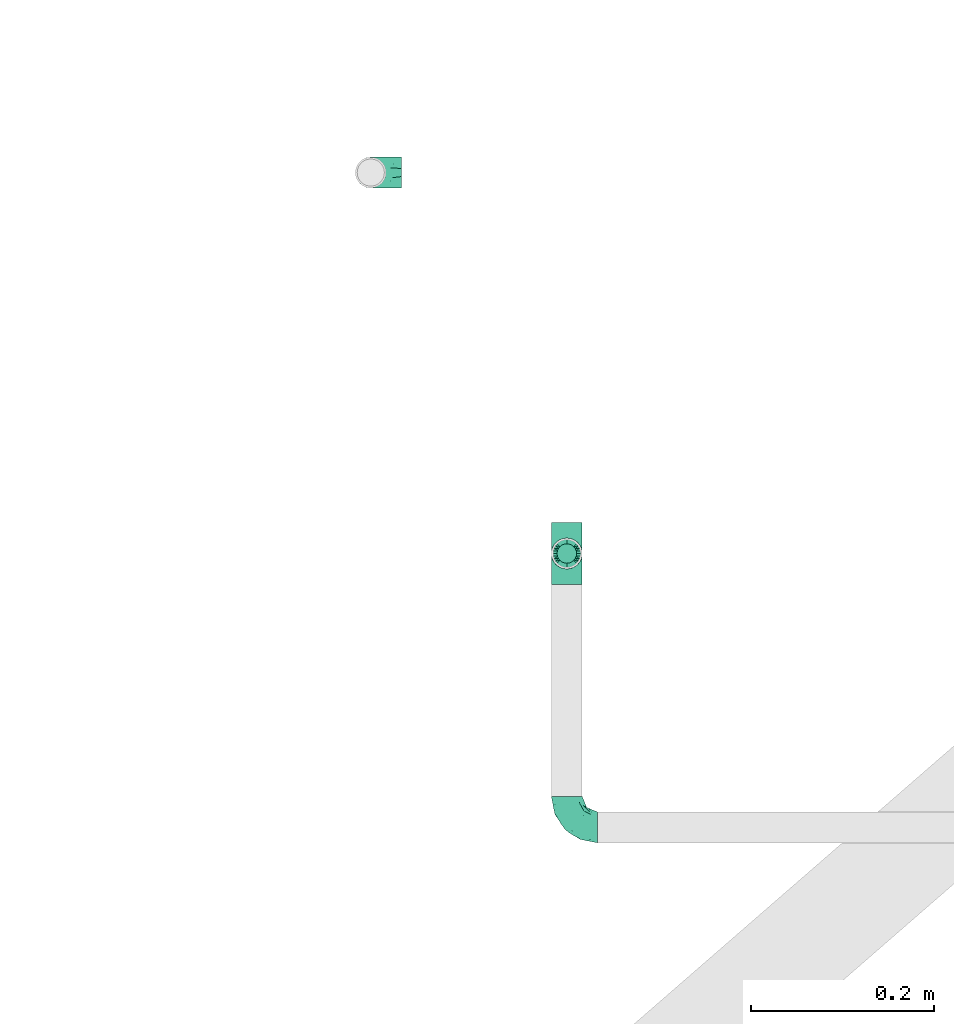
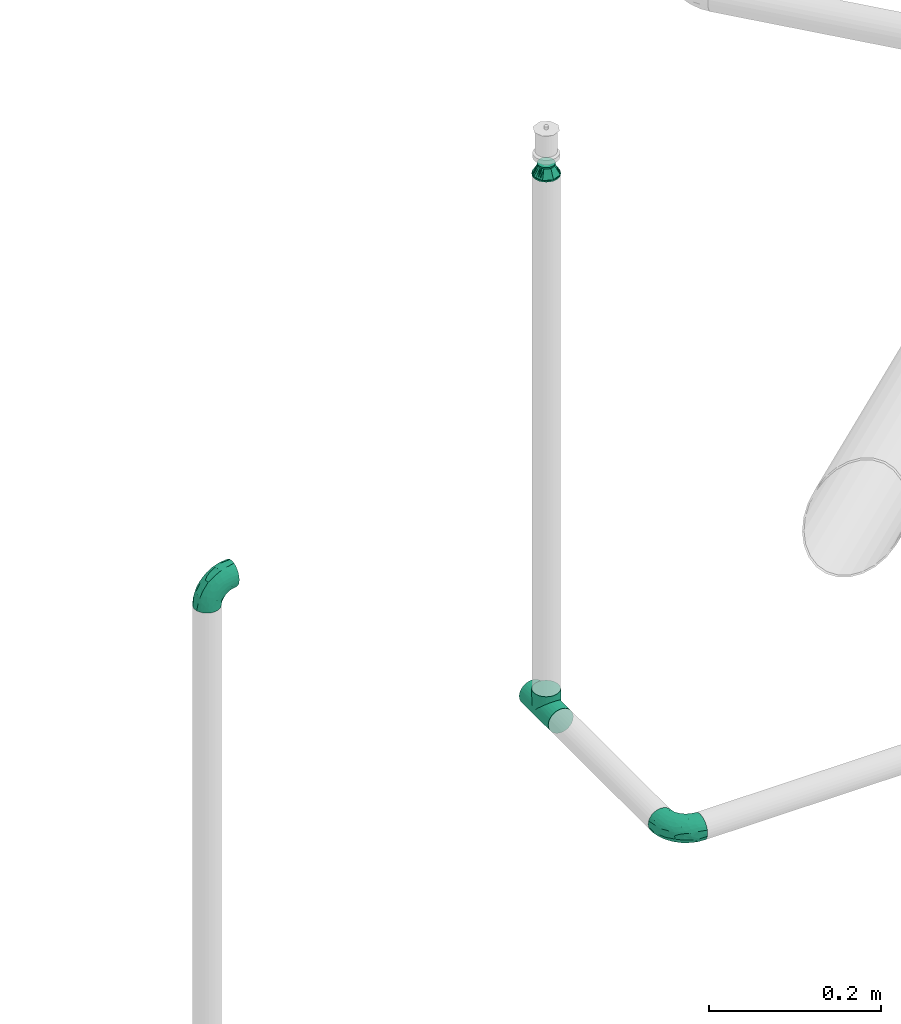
# One storey, part 39 of 94: 4 flow fittings.
"""IFC2X3 building model written with IfcOpenShell, lengths in millimetres."""

from ifc_helpers import new_model, entity, si_unit, converted_unit, derived_unit, direction, frame, origin_with_axes, place, context, subcontext, project, spatial, open_shell, surface_model, source, transform, mapped, type_object, element, save


model = new_model("IFC2X3")

# Units and contexts
model_context = context("Model", 3, precision=0.01, world=frame((0.0, 4.29681676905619e-09, 0.0)), true_north=direction((4.01073788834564e-13, 1.0)))
plan_context = context("Plan", 3, precision=0.01, world=frame((0.0, 4.29681676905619e-09, 0.0)), true_north=direction((4.01073788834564e-13, 1.0)))
body_context = subcontext(model_context, "Body", "Model", "MODEL_VIEW")
ifc_project = project(units=[converted_unit("PLANEANGLEUNIT", "DEGREE", entity("IfcPositiveLengthMeasure", 0.0174532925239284), si_unit("PLANEANGLEUNIT", "RADIAN"), dimensions=[0, 0, 0, 0, 0, 0, 0]), si_unit("AREAUNIT", "SQUARE_METRE"), si_unit("LENGTHUNIT", "METRE", prefix="MILLI"), si_unit("MASSUNIT", "GRAM", prefix="KILO"), si_unit("POWERUNIT", "WATT"), si_unit("PRESSUREUNIT", "PASCAL", prefix="KILO"), si_unit("FORCEUNIT", "NEWTON", prefix="KILO"), si_unit("ELECTRICVOLTAGEUNIT", "VOLT"), si_unit("ELECTRICCURRENTUNIT", "AMPERE"), si_unit("THERMODYNAMICTEMPERATUREUNIT", "DEGREE_CELSIUS"), si_unit("TIMEUNIT", "SECOND"), si_unit("VOLUMEUNIT", "CUBIC_METRE"), derived_unit("LINEARVELOCITYUNIT", [(si_unit("LENGTHUNIT", "METRE"), 1), (si_unit("TIMEUNIT", "SECOND"), -1)]), derived_unit("VOLUMETRICFLOWRATEUNIT", [(si_unit("VOLUMEUNIT", "CUBIC_METRE"), 1), (si_unit("TIMEUNIT", "SECOND"), -1)]), derived_unit("THERMALTRANSMITTANCEUNIT", [(si_unit("POWERUNIT", "WATT"), 1), (si_unit("THERMODYNAMICTEMPERATUREUNIT", "KELVIN"), -1), (si_unit("AREAUNIT", "SQUARE_METRE"), -1)]), derived_unit("SOUNDPRESSUREUNIT", [(si_unit("PRESSUREUNIT", "PASCAL"), 1)])], contexts=[model_context, plan_context])

# Site, building, storey
site_placement = place(None, frame((0.0, -4.29681676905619e-09, 0.0), z_axis=(0.0, 0.0, 1.0), x_axis=(1.0, 0.0, 0.0)))
site = spatial("IfcSite", under=ifc_project, at=site_placement, CompositionType="ELEMENT")
building_placement = place(site_placement, frame((0.0, 4.29681676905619e-09, 0.0), z_axis=(0.0, 0.0, 1.0), x_axis=(1.0, 0.0, 0.0)))
building = spatial("IfcBuilding", under=site, at=building_placement, Name="mc-building", CompositionType="ELEMENT")
storey_placement = place(building_placement, frame((0.0, 0.0, 210900.0), z_axis=(0.0, 0.0, 1.0), x_axis=(1.0, 0.0, 0.0)))
storey = spatial("IfcBuildingStorey", under=building, at=storey_placement, Name="Nivå F", CompositionType="ELEMENT", Elevation=210900.0)

# Flow fittings
pipe_fitting_type_1 = type_object("IfcPipeFittingType", Name="magi_pipe_fe_reducer_centric_short_NOR", PredefinedType="TRANSITION")
shared_shape_1 = source(origin_with_axes(), body_context, "Body", "SurfaceModel", [
    surface_model("IfcShellBasedSurfaceModel", [(14.4, 5.35, -9.26647), (14.4, 0.0, -10.7), (14.4, 2.76936, -10.33541), (14.4, 10.33541, -2.76936), (14.4, 7.56604, -7.56604), (14.4, -10.33541, -2.76936), (14.4, 9.26647, -5.35), (14.4, 0.0, 10.7), (14.4, -5.35, -9.26647), (14.4, -2.76936, -10.33541), (14.4, -7.56604, -7.56604), (14.4, -9.26647, -5.35), (14.4, 10.7, 0.0), (14.4, 10.33541, 2.76936), (14.4, 9.26647, 5.35), (14.4, 7.56604, 7.56604), (14.4, 2.76936, 10.33541), (14.4, 5.35, 9.26647), (14.4, -10.33541, 2.76936), (14.4, -7.56604, 7.56604), (14.4, -9.26647, 5.35), (14.4, -10.7, 0.0), (14.4, -2.76936, 10.33541), (14.4, -5.35, 9.26647), (12.4, 2.76936, 10.33541), (12.4, -10.33541, -2.76936), (12.4, 0.0, 10.7), (12.4, 5.35, 9.26647), (12.4, 7.56604, 7.56604), (12.4, 9.26647, 5.35), (12.4, 10.33541, 2.76936), (12.4, -10.33541, 2.76936), (12.4, -2.76936, 10.33541), (12.4, -7.56604, 7.56604), (12.4, -5.35, 9.26647), (12.4, -9.26647, 5.35), (12.4, -10.7, 0.0), (12.4, 10.33541, -2.76936), (12.4, 5.35, -9.26647), (12.4, 9.26647, -5.35), (12.4, 7.56604, -7.56604), (12.4, 2.76936, -10.33541), (12.4, -9.26647, -5.35), (12.4, -5.35, -9.26647), (12.4, -7.56604, -7.56604), (12.4, 0.0, -10.7), (12.4, -2.76936, -10.33541), (12.4, 10.7, 0.0), (-2.0, 11.9501, 11.9501), (-2.0, 0.0, 16.9), (-2.0, 4.37404, 16.32415), (-2.0, 8.45, 14.63583), (-2.0, 14.63583, 8.45), (-2.0, 16.32415, 4.37404), (-2.0, -16.32415, 4.37404), (-2.0, -8.45, 14.63583), (-2.0, -14.63583, 8.45), (-2.0, -11.9501, 11.9501), (-2.0, -4.37404, 16.32415), (-2.0, -16.32415, -4.37404), (-2.0, -16.9, 0.0), (-2.0, -8.45, -14.63583), (-2.0, 16.32415, -4.37404), (-2.0, 11.9501, -11.9501), (-2.0, 14.63583, -8.45), (-2.0, 8.45, -14.63583), (-2.0, 4.37404, -16.32415), (-2.0, 0.0, -16.9), (-2.0, -11.9501, -11.9501), (-2.0, -14.63583, -8.45), (-2.0, -4.37404, -16.32415), (-2.0, 16.9, 0.0), (0.0, 4.37404, -16.32415), (0.0, 8.45, -14.63583), (0.0, 11.9501, -11.9501), (0.0, 0.0, -16.9), (0.0, 16.32415, -4.37404), (0.0, 16.32415, 4.37404), (0.0, 14.63583, -8.45), (0.0, -8.45, -14.63583), (0.0, -4.37404, -16.32415), (0.0, -11.9501, -11.9501), (0.0, -16.32415, -4.37404), (0.0, -14.63583, -8.45), (0.0, -16.32415, 4.37404), (0.0, 16.9, 0.0), (0.0, 14.63583, 8.45), (0.0, 11.9501, 11.9501), (0.0, 4.37404, 16.32415), (0.0, 8.45, 14.63583), (0.0, 0.0, 16.9), (0.0, -14.63583, 8.45), (0.0, -16.9, 0.0), (0.0, -8.45, 14.63583), (0.0, -11.9501, 11.9501), (0.0, -4.37404, 16.32415), (12.4, 9.3625, -2.31662), (0.0, 14.42505, -5.97505), (0.0, 15.66253, -2.98753), (12.4, -6.6875, -6.94985), (0.0, -13.18758, -8.96258), (0.0, 2.98753, -15.66253), (12.4, 0.0, -9.26647), (12.4, 6.6875, -6.94985), (0.0, 8.96258, -13.18758), (12.4, -9.3625, -2.31662), (0.0, -15.66253, -2.98753), (0.0, -14.42505, -5.97505), (0.0, 5.97505, -14.42505), (0.0, -2.98753, -15.66253), (0.0, -8.96258, -13.18758), (0.0, 13.18758, -8.96258), (12.4, 8.025, -4.63324), (12.4, -2.675, -9.26647), (12.4, 2.675, -9.26647), (0.0, -5.97505, -14.42505), (12.4, -8.025, -4.63324), (12.4, -9.3625, 2.31662), (0.0, -14.42505, 5.97505), (0.0, -15.66253, 2.98753), (12.4, 6.6875, 6.94985), (0.0, 13.18758, 8.96258), (0.0, -2.98753, 15.66253), (12.4, 0.0, 9.26647), (12.4, -6.6875, 6.94985), (0.0, -8.96258, 13.18758), (12.4, 9.3625, 2.31662), (0.0, 15.66253, 2.98753), (0.0, 14.42505, 5.97505), (0.0, -5.97505, 14.42505), (0.0, 2.98753, 15.66253), (0.0, 8.96258, 13.18758), (0.0, -13.18758, 8.96258), (12.4, -8.025, 4.63324), (12.4, 2.675, 9.26647), (12.4, -2.675, 9.26647), (0.0, 5.97505, 14.42505), (12.4, 8.025, 4.63324)], [open_shell([[[0, 1, 2]], [[3, 0, 4]], [[5, 0, 3]], [[3, 4, 6]], [[7, 5, 3]], [[1, 8, 9]], [[1, 0, 8]], [[10, 5, 11]], [[5, 10, 8]], [[0, 5, 8]], [[3, 12, 13]], [[13, 14, 15]], [[13, 15, 16]], [[7, 3, 16]], [[16, 15, 17]], [[7, 18, 5]], [[18, 19, 20]], [[21, 5, 18]], [[19, 22, 23]], [[22, 19, 18]], [[7, 22, 18]], [[13, 16, 3]], [[24, 25, 26]], [[27, 25, 24]], [[28, 29, 30]], [[28, 25, 27]], [[31, 26, 25]], [[32, 33, 34]], [[33, 32, 31]], [[33, 31, 35]], [[32, 26, 31]], [[31, 25, 36]], [[30, 37, 28]], [[25, 28, 37]], [[38, 37, 39]], [[37, 38, 25]], [[38, 39, 40]], [[41, 25, 38]], [[42, 43, 44]], [[43, 42, 25]], [[43, 45, 46]], [[43, 25, 41]], [[41, 45, 43]], [[37, 30, 47]], [[25, 5, 36]], [[42, 11, 25]], [[8, 44, 43]], [[42, 44, 10]], [[9, 43, 46]], [[25, 11, 5]], [[5, 21, 36]], [[9, 8, 43]], [[10, 44, 8]], [[10, 11, 42]], [[1, 9, 46]], [[46, 45, 1]], [[41, 2, 45]], [[38, 0, 41]], [[6, 40, 39]], [[38, 40, 4]], [[3, 39, 37]], [[38, 4, 0]], [[0, 2, 41]], [[12, 3, 37]], [[6, 39, 3]], [[6, 4, 40]], [[47, 12, 37]], [[45, 2, 1]], [[30, 13, 47]], [[29, 14, 30]], [[17, 28, 27]], [[29, 28, 15]], [[16, 27, 24]], [[30, 14, 13]], [[13, 12, 47]], [[16, 17, 27]], [[15, 28, 17]], [[15, 14, 29]], [[7, 16, 24]], [[24, 26, 7]], [[32, 22, 26]], [[34, 23, 32]], [[20, 33, 35]], [[34, 33, 19]], [[18, 35, 31]], [[34, 19, 23]], [[23, 22, 32]], [[21, 18, 31]], [[20, 35, 18]], [[20, 19, 33]], [[36, 21, 31]], [[26, 22, 7]], [[48, 49, 50]], [[48, 50, 51]], [[48, 52, 53]], [[48, 53, 49]], [[49, 53, 54]], [[55, 56, 57]], [[55, 58, 49]], [[56, 55, 49]], [[49, 54, 56]], [[54, 59, 60]], [[54, 53, 61]], [[53, 62, 63]], [[63, 62, 64]], [[63, 65, 66]], [[61, 53, 63]], [[67, 63, 66]], [[59, 68, 69]], [[68, 59, 61]], [[61, 67, 70]], [[59, 54, 61]], [[63, 67, 61]], [[53, 71, 62]], [[72, 73, 74]], [[75, 72, 74]], [[74, 76, 77]], [[76, 74, 78]], [[74, 77, 79]], [[75, 79, 80]], [[75, 74, 79]], [[81, 82, 83]], [[82, 81, 79]], [[79, 84, 82]], [[77, 76, 85]], [[77, 86, 87]], [[77, 87, 88]], [[88, 84, 79]], [[88, 87, 89]], [[84, 88, 90]], [[90, 91, 84]], [[92, 82, 84]], [[91, 93, 94]], [[91, 90, 93]], [[93, 90, 95]], [[79, 77, 88]], [[59, 82, 60]], [[69, 83, 59]], [[79, 68, 61]], [[69, 68, 81]], [[80, 61, 70]], [[59, 83, 82]], [[82, 92, 60]], [[80, 79, 61]], [[81, 68, 79]], [[81, 83, 69]], [[75, 80, 70]], [[70, 67, 75]], [[66, 72, 67]], [[65, 73, 66]], [[78, 63, 64]], [[65, 63, 74]], [[76, 64, 62]], [[65, 74, 73]], [[73, 72, 66]], [[85, 76, 62]], [[78, 64, 76]], [[78, 74, 63]], [[71, 85, 62]], [[67, 72, 75]], [[53, 77, 71]], [[52, 86, 53]], [[89, 48, 51]], [[52, 48, 87]], [[88, 51, 50]], [[53, 86, 77]], [[77, 85, 71]], [[88, 89, 51]], [[87, 48, 89]], [[87, 86, 52]], [[90, 88, 50]], [[50, 49, 90]], [[58, 95, 49]], [[55, 93, 58]], [[91, 57, 56]], [[55, 57, 94]], [[84, 56, 54]], [[55, 94, 93]], [[93, 95, 58]], [[92, 84, 54]], [[91, 56, 84]], [[91, 94, 57]], [[60, 92, 54]], [[49, 95, 90]], [[27, 34, 47]], [[47, 34, 43]], [[43, 38, 47]], [[43, 34, 36]], [[90, 87, 94]], [[92, 94, 87]], [[87, 74, 92]], [[75, 92, 74]], [[81, 92, 75]], [[74, 87, 85]], [[96, 97, 98]], [[81, 99, 100]], [[101, 102, 75]], [[98, 85, 47]], [[74, 103, 104]], [[104, 103, 38]], [[105, 106, 107]], [[38, 108, 104]], [[102, 109, 75]], [[110, 99, 81]], [[47, 96, 98]], [[103, 111, 112]], [[109, 102, 113]], [[36, 92, 106]], [[102, 101, 114]], [[110, 115, 43]], [[96, 112, 97]], [[107, 116, 105]], [[36, 106, 105]], [[113, 115, 109]], [[43, 115, 113]], [[116, 107, 100]], [[108, 38, 114]], [[111, 103, 74]], [[111, 97, 112]], [[99, 110, 43]], [[116, 100, 99]], [[101, 108, 114]], [[117, 118, 119]], [[87, 120, 121]], [[122, 123, 90]], [[119, 92, 36]], [[94, 124, 125]], [[125, 124, 34]], [[126, 127, 128]], [[34, 129, 125]], [[123, 130, 90]], [[131, 120, 87]], [[36, 117, 119]], [[124, 132, 133]], [[130, 123, 134]], [[47, 85, 127]], [[123, 122, 135]], [[131, 136, 27]], [[117, 133, 118]], [[128, 137, 126]], [[47, 127, 126]], [[134, 136, 130]], [[27, 136, 134]], [[137, 128, 121]], [[129, 34, 135]], [[132, 124, 94]], [[132, 118, 133]], [[120, 131, 27]], [[137, 121, 120]], [[122, 129, 135]]])]),
])
flow_fitting_1_placement = place(storey_placement, frame((716214.70896, 441183.45685, 4357.64799999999), z_axis=(-1.0, 0.0, 0.0), x_axis=(0.0, 0.0, 1.0)))
element("IfcFlowFitting", 1, at=flow_fitting_1_placement, inside=storey, type_object=pipe_fitting_type_1, Name="magi_pipe_fe_reducer_centric_short_NOR", context=body_context, shape_type="MappedRepresentation", body=[
    mapped(shared_shape_1, transform((0.0, 0.0, 0.0), scale=1.0)),
])
pipe_fitting_type_2 = type_object("IfcPipeFittingType", Name="magi_pipe_fe_tee_centric_90_NOR", PredefinedType="JUNCTION")
shared_shape_2 = source(origin_with_axes(), body_context, "Body", "SurfaceModel", [
    surface_model("IfcShellBasedSurfaceModel", [(-33.8, 4.37404, -16.32415), (-33.8, 0.0, -16.9), (-33.8, 16.32415, -4.37404), (-33.8, 8.45, -14.63583), (-33.8, 11.9501, -11.9501), (-33.8, 14.63583, -8.45), (-33.8, -16.9, 0.0), (-33.8, -11.9501, -11.9501), (-33.8, -14.63583, -8.45), (-33.8, -8.45, -14.63583), (-33.8, -4.37404, -16.32415), (-33.8, -16.32415, -4.37404), (-33.8, 14.63583, 8.45), (-33.8, 16.32415, 4.37404), (-33.8, -8.45, 14.63583), (-33.8, 8.45, 14.63583), (-33.8, 11.9501, 11.9501), (-33.8, 4.37404, 16.32415), (-33.8, 0.0, 16.9), (-33.8, -11.9501, 11.9501), (-33.8, -14.63583, 8.45), (-33.8, -16.32415, 4.37404), (-33.8, -4.37404, 16.32415), (-33.8, 16.9, 0.0), (33.8, 4.37404, -16.32415), (33.8, -16.9, 0.0), (33.8, 0.0, -16.9), (33.8, 14.63583, -8.45), (33.8, 8.45, -14.63583), (33.8, 16.32415, -4.37404), (33.8, 11.9501, -11.9501), (33.8, -16.32415, 4.37404), (33.8, -8.45, -14.63583), (33.8, -4.37404, -16.32415), (33.8, -11.9501, -11.9501), (33.8, -14.63583, -8.45), (33.8, -16.32415, -4.37404), (33.8, 16.32415, 4.37404), (33.8, 8.45, 14.63583), (33.8, 14.63583, 8.45), (33.8, 11.9501, 11.9501), (33.8, -8.45, 14.63583), (33.8, 4.37404, 16.32415), (33.8, -14.63583, 8.45), (33.8, -11.9501, 11.9501), (33.8, 0.0, 16.9), (33.8, -4.37404, 16.32415), (33.8, 16.9, 0.0), (16.28698, -16.28698, 4.51047), (16.9, -16.9, 0.0), (14.62704, -14.62704, 8.4652), (9.47213, -9.47213, 13.99602), (12.26343, -12.26343, 11.62834), (-16.9, -16.9, 0.0), (-16.28698, -16.28698, 4.51047), (-14.62704, -14.62704, 8.4652), (-12.26343, -12.26343, 11.62834), (-9.47213, -9.47213, 13.99602), (-6.42894, -6.42894, 15.62942), (6.42894, -6.42894, 15.62942), (3.24522, -3.24522, 16.58549), (0.0, 0.0, 16.9), (-3.24522, -3.24522, 16.58549), (3.24522, -3.24522, -16.58549), (0.0, 0.0, -16.9), (-3.24522, -3.24522, -16.58549), (-6.42894, -6.42894, -15.62942), (6.42894, -6.42894, -15.62942), (9.47213, -9.47213, -13.99602), (12.26343, -12.26343, -11.62834), (14.62704, -14.62704, -8.4652), (16.28698, -16.28698, -4.51047), (-9.47213, -9.47213, -13.99602), (-12.26343, -12.26343, -11.62834), (-16.28698, -16.28698, -4.51047), (-14.62704, -14.62704, -8.4652), (4.37404, -25.35, -16.32415), (-16.9, -25.35, 0.0), (0.0, -25.35, -16.9), (14.63583, -25.35, -8.45), (8.45, -25.35, -14.63583), (16.32415, -25.35, -4.37404), (11.9501, -25.35, -11.9501), (-11.9501, -25.35, -11.9501), (-8.45, -25.35, -14.63583), (-4.37404, -25.35, -16.32415), (-14.63583, -25.35, -8.45), (-16.32415, -25.35, -4.37404), (16.9, -25.35, 0.0), (8.45, -25.35, 14.63583), (16.32415, -25.35, 4.37404), (14.63583, -25.35, 8.45), (-8.45, -25.35, 14.63583), (11.9501, -25.35, 11.9501), (4.37404, -25.35, 16.32415), (-16.32415, -25.35, 4.37404), (-11.9501, -25.35, 11.9501), (-14.63583, -25.35, 8.45), (0.0, -25.35, 16.9), (-4.37404, -25.35, 16.32415)], [open_shell([[[0, 1, 2]], [[3, 0, 4]], [[0, 2, 5]], [[4, 0, 5]], [[6, 2, 1]], [[7, 8, 9]], [[1, 10, 9]], [[11, 6, 8]], [[1, 9, 8]], [[1, 8, 6]], [[6, 12, 2]], [[12, 13, 2]], [[14, 12, 6]], [[12, 14, 15]], [[16, 12, 15]], [[17, 15, 18]], [[19, 14, 20]], [[21, 20, 14]], [[22, 18, 14]], [[14, 6, 21]], [[14, 18, 15]], [[23, 2, 13]], [[24, 25, 26]], [[27, 24, 28]], [[27, 29, 24]], [[27, 28, 30]], [[31, 25, 24]], [[26, 32, 33]], [[26, 34, 32]], [[35, 25, 36]], [[35, 34, 26]], [[25, 35, 26]], [[24, 29, 31]], [[29, 37, 38]], [[38, 37, 39]], [[38, 31, 29]], [[38, 39, 40]], [[41, 38, 42]], [[43, 41, 44]], [[41, 43, 31]], [[41, 45, 46]], [[41, 31, 38]], [[42, 45, 41]], [[29, 47, 37]], [[31, 43, 48]], [[25, 31, 49]], [[49, 31, 48]], [[43, 50, 48]], [[44, 41, 51]], [[50, 43, 52]], [[51, 52, 44]], [[52, 43, 44]], [[53, 54, 21]], [[53, 21, 6]], [[21, 54, 20]], [[54, 55, 20]], [[56, 57, 19]], [[19, 20, 56]], [[19, 57, 14]], [[56, 20, 55]], [[14, 57, 58]], [[51, 41, 59]], [[60, 45, 61]], [[59, 46, 60]], [[46, 59, 41]], [[60, 46, 45]], [[61, 45, 42]], [[39, 37, 13]], [[16, 38, 40]], [[12, 40, 39]], [[42, 38, 15]], [[23, 37, 47]], [[62, 61, 18]], [[62, 22, 58]], [[22, 62, 18]], [[58, 22, 14]], [[61, 17, 18]], [[42, 17, 61]], [[15, 17, 42]], [[15, 38, 16]], [[12, 16, 40]], [[13, 12, 39]], [[37, 23, 13]], [[5, 27, 30]], [[23, 47, 29]], [[30, 28, 3]], [[27, 2, 29]], [[26, 33, 63]], [[26, 64, 24]], [[64, 26, 63]], [[28, 24, 0]], [[64, 0, 24]], [[4, 30, 3]], [[2, 27, 5]], [[5, 30, 4]], [[2, 23, 29]], [[65, 66, 10]], [[1, 0, 64]], [[1, 65, 10]], [[66, 9, 10]], [[0, 3, 28]], [[1, 64, 65]], [[63, 33, 67]], [[32, 34, 68]], [[69, 68, 34]], [[35, 70, 69]], [[69, 34, 35]], [[32, 68, 67]], [[36, 25, 49]], [[36, 71, 35]], [[71, 36, 49]], [[35, 71, 70]], [[72, 9, 66]], [[72, 7, 9]], [[7, 72, 73]], [[7, 73, 8]], [[74, 53, 11]], [[75, 74, 8]], [[74, 11, 8]], [[11, 53, 6]], [[75, 8, 73]], [[32, 67, 33]], [[76, 77, 78]], [[79, 76, 80]], [[79, 81, 76]], [[79, 80, 82]], [[77, 76, 81]], [[78, 83, 84]], [[84, 85, 78]], [[86, 77, 87]], [[83, 78, 86]], [[77, 86, 78]], [[81, 88, 77]], [[89, 88, 90]], [[89, 90, 91]], [[92, 77, 89]], [[89, 91, 93]], [[92, 89, 94]], [[95, 96, 97]], [[96, 95, 92]], [[92, 98, 99]], [[95, 77, 92]], [[94, 98, 92]], [[89, 77, 88]], [[77, 95, 53]], [[54, 53, 95]], [[97, 96, 56]], [[96, 92, 57]], [[95, 97, 54]], [[58, 92, 99]], [[55, 54, 97]], [[56, 55, 97]], [[58, 57, 92]], [[98, 61, 62]], [[58, 99, 62]], [[56, 96, 57]], [[62, 99, 98]], [[94, 60, 98]], [[89, 59, 94]], [[91, 90, 48]], [[52, 93, 91]], [[93, 51, 89]], [[49, 90, 88]], [[59, 60, 94]], [[51, 59, 89]], [[49, 48, 90]], [[50, 52, 91]], [[48, 50, 91]], [[51, 93, 52]], [[98, 60, 61]], [[88, 81, 49]], [[71, 49, 81]], [[79, 82, 69]], [[82, 80, 68]], [[81, 79, 71]], [[67, 80, 76]], [[70, 71, 79]], [[69, 70, 79]], [[67, 68, 80]], [[78, 64, 63]], [[67, 76, 63]], [[69, 82, 68]], [[63, 76, 78]], [[85, 65, 78]], [[84, 66, 85]], [[86, 87, 74]], [[86, 73, 83]], [[72, 84, 83]], [[53, 87, 77]], [[66, 65, 85]], [[72, 66, 84]], [[53, 74, 87]], [[75, 73, 86]], [[74, 75, 86]], [[72, 83, 73]], [[78, 65, 64]]])]),
])
flow_fitting_2_placement = place(storey_placement, frame((716214.70896, 441183.45685, 3600.0), z_axis=(-1.0, 0.0, 0.0), x_axis=(0.0, 1.0, 0.0)))
element("IfcFlowFitting", 2, at=flow_fitting_2_placement, inside=storey, type_object=pipe_fitting_type_2, Name="magi_pipe_fe_tee_centric_90_NOR", context=body_context, shape_type="MappedRepresentation", body=[
    mapped(shared_shape_2, transform((0.0, 0.0, 0.0), scale=1.0)),
])
pipe_fitting_type_3 = type_object("IfcPipeFittingType", Name="magi_pipe_fe_elbow_short_001", PredefinedType="BEND")
shared_shape_3 = source(origin_with_axes(), body_context, "Body", "SurfaceModel", [
    surface_model("IfcShellBasedSurfaceModel", [(-33.8, 8.45, -14.63583), (-33.8, 4.37404, -16.32415), (-33.8, 11.9501, -11.9501), (-33.8, -11.9501, -11.9501), (-33.8, -14.63583, -8.45), (-33.8, -8.45, -14.63583), (-33.8, 0.0, -16.9), (-33.8, -4.37404, -16.32415), (-33.8, -4.37404, 16.32415), (-33.8, 0.0, 16.9), (-33.8, -8.45, 14.63583), (-33.8, 16.32415, -4.37404), (-33.8, 14.63583, -8.45), (-33.8, -16.32415, -4.37404), (-33.8, -16.9, 0.0), (-33.8, -16.32415, 4.37404), (-33.8, 11.9501, 11.9501), (-33.8, 14.63583, 8.45), (-33.8, 16.32415, 4.37404), (-33.8, 4.37404, 16.32415), (-33.8, 8.45, 14.63583), (-33.8, -14.63583, 8.45), (-33.8, -11.9501, 11.9501), (-33.8, 16.9, 0.0), (-11.9501, 33.8, -11.9501), (0.0, 33.8, -16.9), (-4.37404, 33.8, -16.32415), (-8.45, 33.8, -14.63583), (-14.63583, 33.8, -8.45), (-16.32415, 33.8, -4.37404), (14.63583, 33.8, -8.45), (8.45, 33.8, 14.63583), (16.32415, 33.8, -4.37404), (8.45, 33.8, -14.63583), (11.9501, 33.8, -11.9501), (4.37404, 33.8, -16.32415), (16.32415, 33.8, 4.37404), (16.9, 33.8, 0.0), (-11.9501, 33.8, 11.9501), (-16.32415, 33.8, 4.37404), (-14.63583, 33.8, 8.45), (-8.45, 33.8, 14.63583), (-4.37404, 33.8, 16.32415), (11.9501, 33.8, 11.9501), (14.63583, 33.8, 8.45), (0.0, 33.8, 16.9), (4.37404, 33.8, 16.32415), (-16.9, 33.8, 0.0), (-24.79389, -13.12945, 9.48721), (-22.19287, -9.75018, 12.59315), (-24.09897, -14.97035, 0.0), (-14.93934, -10.76256, 8.5297), (-22.46095, -14.75051, 5.27077), (14.75051, 22.46094, 5.27077), (11.9251, 13.23888, 4.33236), (13.04069, 14.39795, 0.0), (7.71387, 13.68847, 11.55891), (9.75018, 22.19287, 12.59315), (4.10169, 13.0571, 14.04018), (-24.84007, -6.39063, 15.2048), (-25.81779, -2.23879, 16.61097), (-23.66549, 2.59054, 16.87119), (-26.50418, 14.06512, 11.08152), (-24.21253, 17.66365, 7.72657), (-29.58514, 15.86957, 7.00283), (-6.17382, -7.5455, 0.0), (-13.23888, -11.9251, 4.33236), (-14.39795, -13.04069, 0.0), (-17.81434, 18.87373, 11.97104), (-6.30846, 29.15138, 15.82987), (-2.31622, 25.28002, 16.85849), (-29.23923, 10.23435, 13.77053), (-1.45439, -2.85688, 7.61475), (-0.28326, 0.34872, 10.09509), (-5.74484, -4.04709, 10.4122), (-4.41137, 11.31918, 16.59407), (-8.39727, 3.10034, 15.7812), (-1.72649, 9.1306, 15.53089), (-17.39909, 24.75344, 7.64977), (-26.19233, 20.0512, 0.0), (-28.14518, 17.29657, 4.25857), (-26.05147, 6.6281, 15.96447), (-5.87354, 16.61944, 16.86968), (-12.51807, 12.51807, 16.48937), (-10.06312, 7.38516, 16.81295), (-3.01882, 3.01882, 13.81718), (-13.0571, -4.10169, 14.04018), (-16.82553, -0.15166, 16.38038), (10.76256, 14.93934, 8.5297), (13.12945, 24.79389, 9.48721), (6.39063, 24.84007, 15.2048), (2.23879, 25.81779, 16.61097), (-13.68847, -7.71387, 11.55891), (14.97035, 24.09897, 0.0), (-7.30894, 22.89991, 16.09489), (-10.67958, 26.17414, 14.008), (-12.78295, 18.26924, 15.06066), (-13.88562, 22.45231, 12.93244), (-18.04944, 15.16501, 14.04434), (-23.11658, 20.08178, 4.02986), (-21.84989, 21.84989, 0.0), (-18.55817, 25.48277, 3.93065), (-13.95142, 26.94732, 11.03289), (-18.57098, 7.23906, 16.59756), (-16.58335, 4.14122, 16.89279), (-17.96666, 11.46709, 15.63151), (-9.84453, 17.54304, 16.18938), (0.15166, 16.82553, 16.38038), (-23.27207, 11.47201, 14.23154), (3.84842, 5.86994, 10.70473), (-8.0212, -7.54413, 7.93275), (1.00345, -2.19508, 4.57414), (5.13203, 3.01004, 5.90201), (5.24161, 1.7543, 2.53265), (8.70457, 7.04947, 3.99182), (-20.0512, 26.19233, 0.0), (8.4852, 8.76699, 7.09296), (-4.55488, -6.72064, 4.90681), (2.05031, -2.05031, 0.0), (7.5455, 6.17382, 0.0), (-26.75399, 2.1369, -16.845), (-14.61995, 24.73803, -11.27736), (-28.45274, -13.45335, -9.81895), (-26.00469, 6.63555, -15.96645), (-23.06726, 20.04573, -4.26202), (-13.80647, -4.26506, -14.17873), (-14.67501, -0.21081, -16.07388), (-6.7902, -0.2828, -13.8478), (-24.53586, 11.08096, -14.13417), (-26.72048, 14.00837, -11.05776), (10.0967, 24.44989, -12.75976), (5.83237, 21.40218, -15.03047), (6.66249, 28.54238, -15.38093), (-20.38182, 15.48705, -12.74596), (12.53268, 21.23441, -9.15363), (12.54494, 15.67504, -5.54878), (9.7522, 12.89279, -8.66343), (-15.65186, 19.64213, -13.01327), (-12.03528, 20.66498, -14.67665), (-15.61907, 15.61906, -14.83879), (-25.56551, -15.26206, 0.0), (-24.65452, -15.12934, -5.50955), (13.45335, 28.45274, -9.81895), (15.12934, 24.65452, -5.50955), (-7.35442, -8.31014, -5.65563), (-15.67504, -12.54494, -5.54878), (-24.44989, -10.0967, -12.75976), (0.16522, 0.41303, -9.71728), (-5.70658, -5.33066, -8.89288), (-5.13869, -2.37198, -11.53565), (-21.23441, -12.53268, -9.15363), (0.71146, 7.93863, -14.09382), (0.21081, 14.67501, -16.07388), (3.49291, 14.42772, -14.76381), (-24.89911, -2.13088, -16.591), (-28.54238, -6.66249, -15.38093), (-18.44386, -7.71663, -13.26957), (2.13088, 24.89911, -16.591), (-28.64342, 17.44413, -2.89318), (1.70017, -1.28722, -5.09504), (-16.57067, 26.81947, -7.36596), (-17.69055, 27.4263, -3.76405), (-12.89279, -9.7522, -8.66343), (-5.96611, 5.96611, -15.95814), (-20.53709, 20.09345, -8.28985), (-2.1369, 26.75399, -16.845), (-6.89872, 24.58781, -16.02578), (-10.60739, 26.53157, -13.98044), (-21.40218, -5.83237, -15.03047), (2.93192, 5.89627, -11.55917), (6.89393, 12.61842, -11.82233), (5.58056, 5.95325, -8.79455), (-3.99512, 18.61798, -16.89635), (8.31014, 7.35442, -5.65563), (-9.1383, 9.86148, -16.89041), (-9.99983, 16.02119, -16.39699), (-16.68576, 9.78031, -16.34199), (-27.01915, 16.61158, -7.12979), (15.26206, 25.56551, 0.0), (-18.61798, 3.99512, -16.89635), (-19.37495, 27.82495, 0.0), (-12.61842, -6.89393, -11.82233), (-18.84705, 19.14018, -10.96545)], [open_shell([[[0, 1, 2]], [[3, 4, 5]], [[6, 7, 5]], [[8, 9, 10]], [[1, 6, 2]], [[11, 12, 2]], [[4, 2, 6]], [[2, 13, 10]], [[5, 4, 6]], [[2, 4, 13]], [[14, 15, 13]], [[11, 2, 16]], [[11, 17, 18]], [[11, 16, 17]], [[19, 20, 16]], [[16, 2, 10]], [[19, 16, 10]], [[21, 22, 15]], [[22, 13, 15]], [[22, 10, 13]], [[10, 9, 19]], [[11, 18, 23]], [[24, 25, 26]], [[24, 26, 27]], [[24, 28, 29]], [[25, 24, 30]], [[31, 32, 24]], [[33, 30, 34]], [[33, 35, 25]], [[25, 30, 33]], [[32, 30, 24]], [[32, 36, 37]], [[38, 24, 29]], [[39, 40, 29]], [[40, 38, 29]], [[38, 41, 42]], [[38, 31, 24]], [[31, 38, 42]], [[36, 43, 44]], [[36, 32, 43]], [[31, 45, 46]], [[32, 31, 43]], [[42, 45, 31]], [[39, 29, 47]], [[22, 48, 49]], [[15, 14, 50]], [[51, 48, 52]], [[53, 54, 55]], [[48, 22, 21]], [[15, 52, 21]], [[56, 57, 58]], [[49, 10, 22]], [[49, 59, 10]], [[9, 60, 61]], [[62, 63, 64]], [[65, 66, 67]], [[57, 43, 31]], [[62, 68, 63]], [[42, 69, 70]], [[20, 71, 16]], [[8, 60, 9]], [[72, 73, 74]], [[75, 76, 77]], [[16, 62, 17]], [[40, 39, 78]], [[79, 23, 80]], [[64, 18, 17]], [[9, 61, 19]], [[19, 81, 20]], [[82, 83, 84]], [[74, 85, 86]], [[59, 86, 87]], [[88, 89, 57]], [[90, 31, 46]], [[44, 53, 36]], [[46, 45, 91]], [[54, 53, 88]], [[44, 89, 53]], [[92, 86, 49]], [[89, 44, 43]], [[10, 59, 8]], [[53, 55, 93]], [[93, 36, 53]], [[66, 52, 67]], [[94, 82, 70]], [[95, 96, 94]], [[97, 98, 96]], [[79, 99, 100]], [[41, 38, 95]], [[101, 100, 99]], [[68, 78, 63]], [[42, 41, 69]], [[23, 18, 80]], [[95, 94, 69]], [[78, 101, 99]], [[38, 102, 95]], [[70, 45, 42]], [[97, 95, 102]], [[15, 50, 52]], [[90, 57, 31]], [[57, 90, 58]], [[81, 19, 61]], [[103, 104, 84]], [[105, 81, 103]], [[38, 40, 102]], [[106, 96, 83]], [[94, 106, 82]], [[91, 70, 107]], [[71, 62, 16]], [[62, 108, 98]], [[86, 59, 49]], [[67, 52, 50]], [[60, 59, 87]], [[92, 49, 51]], [[86, 85, 76]], [[91, 90, 46]], [[37, 36, 93]], [[107, 77, 58]], [[107, 58, 90]], [[58, 85, 109]], [[110, 74, 92]], [[72, 74, 110]], [[66, 51, 52]], [[72, 111, 112]], [[113, 114, 112]], [[56, 88, 57]], [[52, 48, 21]], [[49, 48, 51]], [[57, 89, 43]], [[53, 89, 88]], [[103, 81, 61]], [[71, 81, 108]], [[18, 64, 80]], [[63, 78, 99]], [[47, 115, 101]], [[101, 115, 100]], [[40, 78, 102]], [[68, 102, 78]], [[97, 96, 95]], [[105, 98, 108]], [[103, 84, 83]], [[107, 70, 82]], [[76, 84, 87]], [[82, 84, 75]], [[70, 91, 45]], [[90, 91, 107]], [[59, 60, 8]], [[61, 60, 87]], [[73, 85, 74]], [[109, 112, 116]], [[103, 61, 104]], [[105, 103, 83]], [[96, 105, 83]], [[81, 105, 108]], [[96, 98, 105]], [[62, 98, 68]], [[61, 87, 104]], [[87, 84, 104]], [[86, 76, 87]], [[77, 76, 85]], [[58, 77, 85]], [[75, 77, 107]], [[82, 75, 107]], [[76, 75, 84]], [[81, 71, 20]], [[62, 71, 108]], [[95, 69, 41]], [[70, 69, 94]], [[62, 64, 17]], [[80, 63, 99]], [[63, 80, 64]], [[80, 99, 79]], [[66, 65, 117]], [[110, 66, 117]], [[112, 114, 116]], [[118, 117, 65]], [[110, 92, 51]], [[112, 111, 113]], [[119, 55, 54]], [[74, 86, 92]], [[58, 109, 56]], [[116, 56, 109]], [[66, 110, 51]], [[72, 110, 117]], [[111, 72, 117]], [[73, 112, 109]], [[117, 118, 111]], [[113, 111, 118]], [[118, 119, 113]], [[114, 119, 54]], [[119, 114, 113]], [[116, 54, 88]], [[54, 116, 114]], [[116, 88, 56]], [[112, 73, 72]], [[85, 73, 109]], [[78, 39, 101]], [[47, 101, 39]], [[102, 68, 97]], [[97, 68, 98]], [[82, 106, 83]], [[94, 96, 106]], [[1, 120, 6]], [[28, 24, 121]], [[3, 122, 4]], [[0, 123, 1]], [[100, 124, 79]], [[125, 126, 127]], [[128, 2, 129]], [[130, 131, 132]], [[128, 129, 133]], [[134, 135, 136]], [[137, 138, 139]], [[128, 0, 2]], [[67, 140, 141]], [[134, 142, 143]], [[141, 13, 4]], [[144, 65, 145]], [[146, 3, 5]], [[147, 148, 149]], [[145, 141, 150]], [[151, 152, 153]], [[154, 7, 6]], [[5, 155, 146]], [[150, 146, 156]], [[155, 5, 7]], [[143, 135, 134]], [[35, 157, 25]], [[23, 79, 158]], [[148, 159, 144]], [[160, 161, 29]], [[145, 162, 144]], [[163, 152, 151]], [[29, 28, 160]], [[121, 164, 160]], [[33, 34, 130]], [[25, 165, 26]], [[26, 165, 166]], [[142, 34, 30]], [[24, 27, 167]], [[124, 161, 164]], [[157, 35, 132]], [[155, 154, 168]], [[123, 0, 128]], [[169, 170, 171]], [[172, 157, 152]], [[26, 166, 27]], [[132, 35, 33]], [[142, 130, 34]], [[168, 154, 126]], [[136, 135, 173]], [[133, 137, 139]], [[2, 12, 129]], [[170, 131, 130]], [[30, 32, 143]], [[172, 174, 175]], [[176, 123, 128]], [[158, 177, 11]], [[135, 55, 119]], [[167, 27, 166]], [[175, 166, 172]], [[137, 167, 138]], [[122, 141, 4]], [[140, 14, 13]], [[32, 37, 178]], [[170, 130, 134]], [[152, 157, 131]], [[165, 157, 172]], [[153, 170, 151]], [[152, 163, 174]], [[168, 125, 156]], [[122, 146, 150]], [[120, 154, 6]], [[179, 174, 126]], [[179, 126, 154]], [[126, 163, 127]], [[162, 145, 150]], [[140, 13, 141]], [[32, 178, 143]], [[55, 143, 178]], [[177, 129, 12]], [[128, 133, 139]], [[176, 128, 139]], [[120, 123, 179]], [[121, 160, 28]], [[161, 100, 180]], [[166, 175, 138]], [[121, 24, 167]], [[161, 47, 29]], [[79, 124, 158]], [[124, 164, 177]], [[161, 124, 100]], [[136, 171, 170]], [[127, 163, 151]], [[147, 171, 159]], [[148, 144, 162]], [[127, 151, 169]], [[127, 181, 125]], [[129, 177, 164]], [[12, 11, 177]], [[159, 65, 144]], [[67, 141, 145]], [[143, 55, 135]], [[135, 119, 173]], [[123, 120, 1]], [[154, 120, 179]], [[157, 165, 25]], [[166, 165, 172]], [[172, 152, 174]], [[176, 139, 175]], [[126, 174, 163]], [[176, 174, 179]], [[174, 176, 175]], [[123, 176, 179]], [[150, 181, 162]], [[127, 149, 181]], [[181, 148, 162]], [[159, 148, 147]], [[171, 136, 173]], [[170, 134, 136]], [[159, 171, 173]], [[171, 147, 169]], [[169, 147, 149]], [[151, 170, 169]], [[164, 182, 129]], [[182, 121, 137]], [[181, 149, 148]], [[169, 149, 127]], [[182, 137, 133]], [[167, 137, 121]], [[166, 138, 167]], [[175, 139, 138]], [[129, 182, 133]], [[121, 182, 164]], [[161, 160, 164]], [[47, 161, 180]], [[177, 158, 124]], [[23, 158, 11]], [[130, 132, 33]], [[157, 132, 131]], [[143, 142, 30]], [[130, 142, 134]], [[154, 155, 7]], [[146, 155, 168]], [[146, 122, 3]], [[141, 122, 150]], [[152, 131, 153]], [[159, 119, 118]], [[67, 145, 65]], [[170, 153, 131]], [[119, 159, 173]], [[159, 118, 65]], [[156, 125, 181]], [[126, 125, 168]], [[150, 156, 181]], [[168, 156, 146]]])]),
])
for number, where, z_axis, x_axis, name in (
    (3, (716214.70896, 440883.45685, 3600.0), (0.0, 0.0, 1.0), (0.0, -1.0, 0.0), "magi_pipe_fe_elbow_short_001"),
    (4, (716000.0, 441600.7, 3600.0), (0.0, 1.0, 0.0), (0.0, 0.0, 1.0), "magi_pipe_fe_elbow_short_001"),
):
    element("IfcFlowFitting", number, at=place(storey_placement, frame(where, z_axis=z_axis, x_axis=x_axis)), inside=storey, type_object=pipe_fitting_type_3, Name=name, context=body_context, shape_type="MappedRepresentation", body=[
        mapped(shared_shape_3, transform((0.0, 0.0, 0.0), scale=1.0)),
    ])

save(model, "model.ifc")
